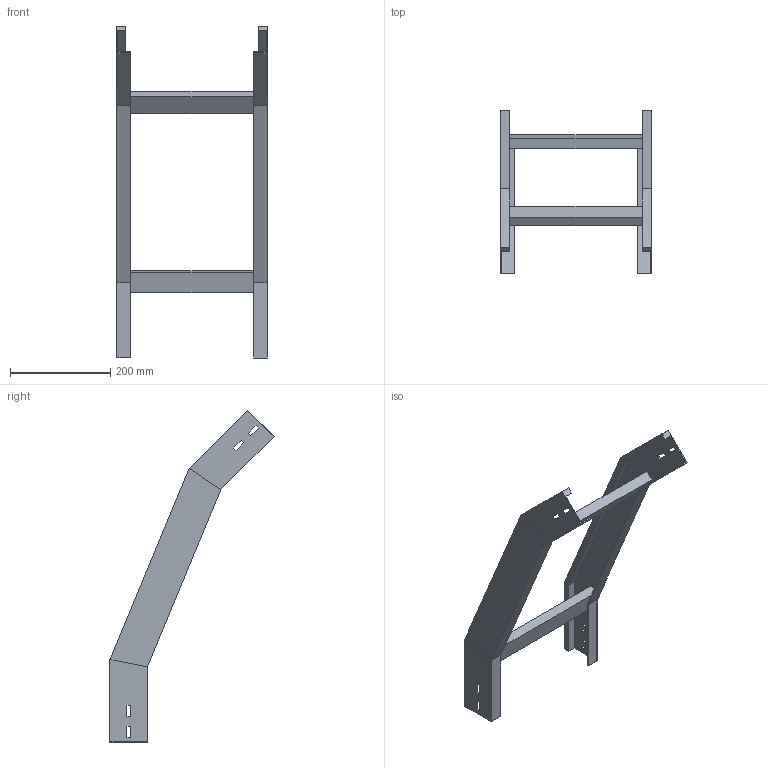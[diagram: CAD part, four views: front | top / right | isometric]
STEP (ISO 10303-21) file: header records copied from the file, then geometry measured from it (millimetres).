
FILE_DESCRIPTION (( 'STEP AP214' ), '1' );
FILE_NAME ('34B5C300.step', '2025-02-21T14:54:19', ( '' ), ( '' ), 'SwSTEP 2.0', 'SolidWorks 2023', '' );
FILE_SCHEMA (( 'AUTOMOTIVE_DESIGN' ));
Length unit declared in the file: millimetre
Products named in the file (3): 34B5C300; LONGH.DISCESA_45°_H75_R500; TRAVERSINO_300
Assembly tree (5 placements, depth 2):
  34B5C300
    LONGH.DISCESA_45°_H75_R500  x2
    TRAVERSINO_300  x3
Bounding box: 300 x 327.63 x 662.94 mm (x, y, z)
Volume: 1282400.1 mm3; surface area: 447498.9 mm2
Topology: 5 solids, 5 shells, 102 faces, 244 edges, 152 vertices
Faces by surface type: plane 102
Entity records: 1480 total; most frequent: CARTESIAN_POINT 244, ORIENTED_EDGE 232, DIRECTION 228, VECTOR 116, LINE 116, EDGE_CURVE 116, VERTEX_POINT 72, AXIS2_PLACEMENT_3D 56
